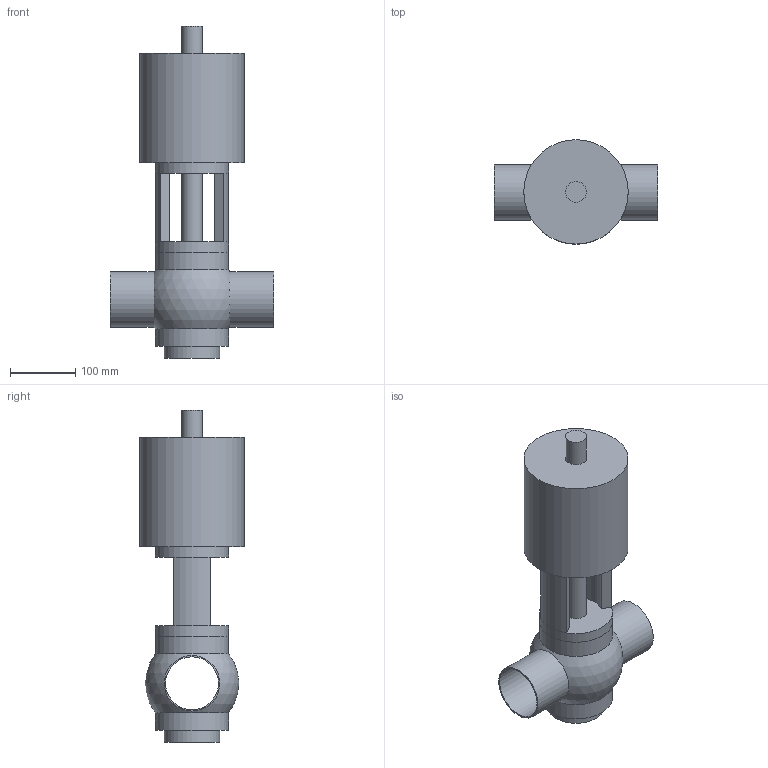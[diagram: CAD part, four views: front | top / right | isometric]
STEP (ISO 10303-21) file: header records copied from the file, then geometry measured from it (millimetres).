
FILE_DESCRIPTION(('FreeCAD Model'),'2;1');
FILE_NAME('/home/martin/Documents/proyect/valves/stp/valve_T_DN-80.step' ,'2018-01-12T21:56:04',('Author'),(''), 'Open CASCADE STEP processor 6.8','FreeCAD','Unknown');
FILE_SCHEMA(('AUTOMOTIVE_DESIGN_CC2 { 1 2 10303 214 -1 1 5 4 }'));
Length unit declared in the file: millimetre
Products named in the file (3): ASSEMBLY; valve_T_DN-80-body; valve_T_DN-80-head
Assembly tree (2 placements, depth 2):
  ASSEMBLY
    valve_T_DN-80-body
    valve_T_DN-80-head
Bounding box: 250 x 160 x 509 mm (x, y, z)
Volume: 4715095.9 mm3; surface area: 376876.1 mm2
Topology: 2 solids, 2 shells, 36 faces, 80 edges, 50 vertices
Faces by surface type: cylinder 18, plane 16, sphere 2
Full cylindrical faces by diameter (mm): 32 x2, 81 x3, 85 x3, 112 x4, 160 x1
Entity records: 2424 total; most frequent: CARTESIAN_POINT 566, DIRECTION 350, ORIENTED_EDGE 158, PCURVE 158, DEFINITIONAL_REPRESENTATION 158, LINE 145, VECTOR 145, AXIS2_PLACEMENT_3D 88
